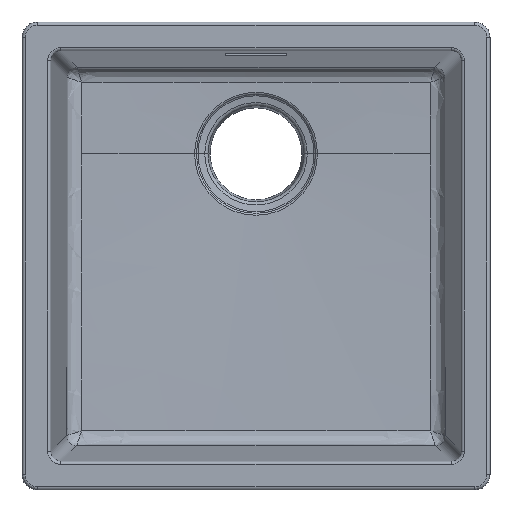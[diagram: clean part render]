
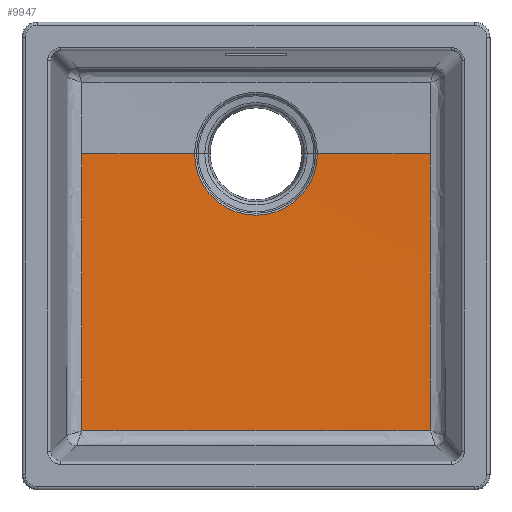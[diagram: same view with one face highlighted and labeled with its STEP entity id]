
A CAD part, top view. The second image highlights one B-rep face of the part: STEP entity #9947.
In plain terms, the highlighted conical face has half-angle 88.2 degrees and reference radius 50 mm.
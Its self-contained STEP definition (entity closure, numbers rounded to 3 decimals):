
#641 = LINE ( 'NONE', #13422, #7514 ) ;
#785 = CARTESIAN_POINT ( 'NONE',  ( 169.797, 99.94, -190.235 ) ) ;
#1512 = CARTESIAN_POINT ( 'NONE',  ( 169.797, 99.94, -190.235 ) ) ;
#1720 = VERTEX_POINT ( 'NONE', #1512 ) ;
#2053 = CARTESIAN_POINT ( 'NONE',  ( 169.809, -12.606, -189.193 ) ) ;
#2321 = CARTESIAN_POINT ( 'NONE',  ( -169.987, -170.135, -185.543 ) ) ;
#2381 = CARTESIAN_POINT ( 'NONE',  ( -56.666, -170.077, -186.943 ) ) ;
#2438 = VERTEX_POINT ( 'NONE', #7965 ) ;
#3018 = B_SPLINE_CURVE_WITH_KNOTS ( 'NONE', 3,
 ( #13570, #15111, #15175, #3662, #9564, #2053, #13764, #12512, #7887, #785 ),
 .UNSPECIFIED., .F., .F.,
 ( 4, 2, 2, 2, 4 ),
 ( 0., 0.068, 0.135, 0.203, 0.27 ),
 .UNSPECIFIED. ) ;
#3079 = CARTESIAN_POINT ( 'NONE',  ( -169.809, -12.603, -189.193 ) ) ;
#3662 = CARTESIAN_POINT ( 'NONE',  ( 169.861, -80.122, -187.805 ) ) ;
#3674 = CARTESIAN_POINT ( 'NONE',  ( 113.328, -170.096, -186.407 ) ) ;
#3764 = ORIENTED_EDGE ( 'NONE', *, *, #15190, .F. ) ;
#4577 = CARTESIAN_POINT ( 'NONE',  ( -169.797, 77.431, -190.235 ) ) ;
#4855 = ORIENTED_EDGE ( 'NONE', *, *, #5217, .T. ) ;
#4917 = VERTEX_POINT ( 'NONE', #7172 ) ;
#5205 = LINE ( 'NONE', #14450, #6823 ) ;
#5210 = ORIENTED_EDGE ( 'NONE', *, *, #17428, .T. ) ;
#5217 = EDGE_CURVE ( 'NONE', #10297, #9774, #18926, .T. ) ;
#5661 = EDGE_LOOP ( 'NONE', ( #10108, #18392, #7669, #4855, #5210, #3764 ) ) ;
#6052 = CARTESIAN_POINT ( 'NONE',  ( -169.916, -125.129, -186.721 ) ) ;
#6440 = AXIS2_PLACEMENT_3D ( 'NONE', #13630, #9189, #18104 ) ;
#6823 = VECTOR ( 'NONE', #8504, 1000. ) ;
#7172 = CARTESIAN_POINT ( 'NONE',  ( 59.879, 99.94, -193.69 ) ) ;
#7514 = VECTOR ( 'NONE', #10511, 1000. ) ;
#7543 = CARTESIAN_POINT ( 'NONE',  ( 0., 99.94, -194. ) ) ;
#7669 = ORIENTED_EDGE ( 'NONE', *, *, #14975, .T. ) ;
#7887 = CARTESIAN_POINT ( 'NONE',  ( 169.797, 77.429, -190.235 ) ) ;
#7965 = CARTESIAN_POINT ( 'NONE',  ( -169.797, 99.94, -190.235 ) ) ;
#8080 = CARTESIAN_POINT ( 'NONE',  ( -169.987, -170.135, -185.543 ) ) ;
#8218 = CARTESIAN_POINT ( 'NONE',  ( -113.328, -170.096, -186.407 ) ) ;
#8504 = DIRECTION ( 'NONE',  ( -1., 0., 0.031 ) ) ;
#8661 = CIRCLE ( 'NONE', #6440, 59.879 ) ;
#8990 = CARTESIAN_POINT ( 'NONE',  ( -169.987, -170.135, -185.543 ) ) ;
#9189 = DIRECTION ( 'NONE',  ( 0., 0., 1. ) ) ;
#9564 = CARTESIAN_POINT ( 'NONE',  ( 169.839, -57.618, -188.312 ) ) ;
#9774 = VERTEX_POINT ( 'NONE', #11384 ) ;
#9947 = ADVANCED_FACE ( 'NONE', ( #16962 ), #14660, .F. ) ;
#10108 = ORIENTED_EDGE ( 'NONE', *, *, #14574, .F. ) ;
#10119 = VERTEX_POINT ( 'NONE', #13922 ) ;
#10297 = VERTEX_POINT ( 'NONE', #8080 ) ;
#10341 = CARTESIAN_POINT ( 'NONE',  ( -169.802, 9.906, -189.567 ) ) ;
#10511 = DIRECTION ( 'NONE',  ( 1., 0., 0.031 ) ) ;
#10984 = CARTESIAN_POINT ( 'NONE',  ( -28.334, -170.072, -187.086 ) ) ;
#11295 = CARTESIAN_POINT ( 'NONE',  ( 141.658, -170.112, -186.017 ) ) ;
#11384 = CARTESIAN_POINT ( 'NONE',  ( 169.987, -170.135, -185.543 ) ) ;
#11636 = DIRECTION ( 'NONE',  ( 0., 0., 1. ) ) ;
#11867 = CARTESIAN_POINT ( 'NONE',  ( -169.796, 54.922, -190.09 ) ) ;
#12465 = CARTESIAN_POINT ( 'NONE',  ( 28.334, -170.072, -187.086 ) ) ;
#12512 = CARTESIAN_POINT ( 'NONE',  ( 169.796, 54.919, -190.09 ) ) ;
#13165 = B_SPLINE_CURVE_WITH_KNOTS ( 'NONE', 3,
 ( #14799, #4577, #11867, #10341, #3079, #16265, #13381, #6052, #17799, #8990 ),
 .UNSPECIFIED., .F., .F.,
 ( 4, 2, 2, 2, 4 ),
 ( 0.07, 0.137, 0.205, 0.272, 0.34 ),
 .UNSPECIFIED. ) ;
#13381 = CARTESIAN_POINT ( 'NONE',  ( -169.861, -80.121, -187.805 ) ) ;
#13422 = CARTESIAN_POINT ( 'NONE',  ( 50., 99.94, -194. ) ) ;
#13570 = CARTESIAN_POINT ( 'NONE',  ( 169.987, -170.135, -185.543 ) ) ;
#13630 = CARTESIAN_POINT ( 'NONE',  ( 0., 99.94, -193.69 ) ) ;
#13764 = CARTESIAN_POINT ( 'NONE',  ( 169.802, 9.902, -189.567 ) ) ;
#13922 = CARTESIAN_POINT ( 'NONE',  ( -59.879, 99.94, -193.69 ) ) ;
#14450 = CARTESIAN_POINT ( 'NONE',  ( -50., 99.94, -194. ) ) ;
#14471 = CARTESIAN_POINT ( 'NONE',  ( 169.987, -170.135, -185.543 ) ) ;
#14574 = EDGE_CURVE ( 'NONE', #10119, #4917, #8661, .T. ) ;
#14660 = CONICAL_SURFACE ( 'NONE', #16489, 50., 1.539 ) ;
#14799 = CARTESIAN_POINT ( 'NONE',  ( -169.797, 99.94, -190.235 ) ) ;
#14975 = EDGE_CURVE ( 'NONE', #2438, #10297, #13165, .T. ) ;
#15111 = CARTESIAN_POINT ( 'NONE',  ( 169.95, -147.633, -186.142 ) ) ;
#15133 = DIRECTION ( 'NONE',  ( 1., 0., 0. ) ) ;
#15175 = CARTESIAN_POINT ( 'NONE',  ( 169.916, -125.13, -186.721 ) ) ;
#15190 = EDGE_CURVE ( 'NONE', #4917, #1720, #641, .T. ) ;
#15918 = EDGE_CURVE ( 'NONE', #10119, #2438, #5205, .T. ) ;
#16265 = CARTESIAN_POINT ( 'NONE',  ( -169.839, -57.616, -188.312 ) ) ;
#16489 = AXIS2_PLACEMENT_3D ( 'NONE', #7543, #11636, #15133 ) ;
#16962 = FACE_OUTER_BOUND ( 'NONE', #5661, .T. ) ;
#17047 = CARTESIAN_POINT ( 'NONE',  ( -141.658, -170.112, -186.017 ) ) ;
#17428 = EDGE_CURVE ( 'NONE', #9774, #1720, #3018, .T. ) ;
#17799 = CARTESIAN_POINT ( 'NONE',  ( -169.95, -147.632, -186.142 ) ) ;
#18104 = DIRECTION ( 'NONE',  ( 1., 0., 0. ) ) ;
#18392 = ORIENTED_EDGE ( 'NONE', *, *, #15918, .T. ) ;
#18503 = CARTESIAN_POINT ( 'NONE',  ( 56.666, -170.077, -186.943 ) ) ;
#18926 = B_SPLINE_CURVE_WITH_KNOTS ( 'NONE', 3,
 ( #2321, #17047, #8218, #2381, #10984, #12465, #18503, #3674, #11295, #14471 ),
 .UNSPECIFIED., .F., .F.,
 ( 4, 2, 2, 2, 4 ),
 ( 0., 0.085, 0.17, 0.255, 0.34 ),
 .UNSPECIFIED. ) ;
